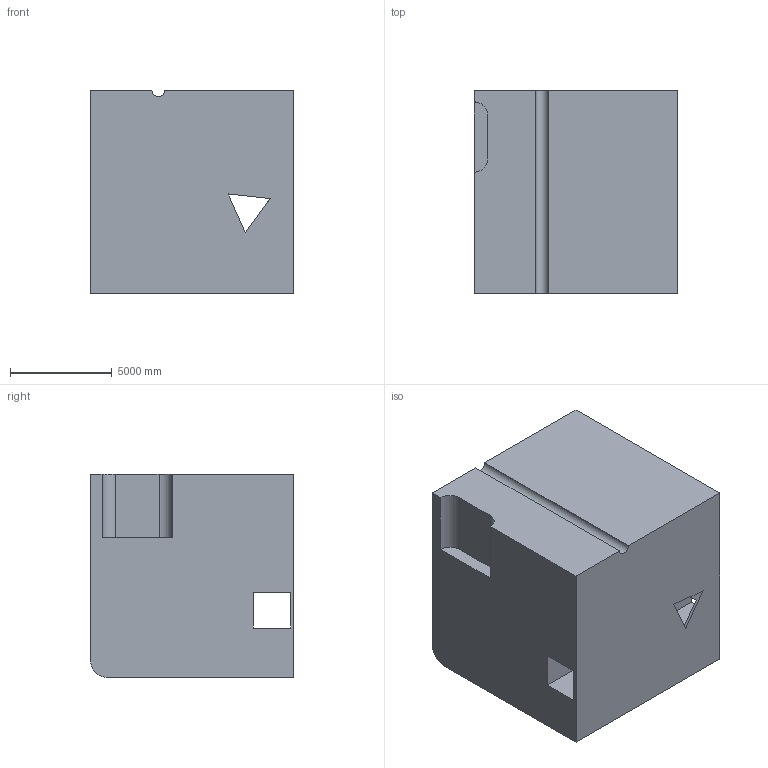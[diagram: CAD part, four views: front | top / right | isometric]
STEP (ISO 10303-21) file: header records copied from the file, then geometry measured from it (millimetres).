
FILE_DESCRIPTION (( 'STEP AP203' ), '1' );
FILE_NAME ('51.STEP', '2022-09-02T13:51:38', ( 'user' ), ( '' ), 'SwSTEP 2.0', 'SolidWorks 2021', '' );
FILE_SCHEMA (( 'CONFIG_CONTROL_DESIGN' ));
Length unit declared in the file: centimetre
Products named in the file (1): 51
Bounding box: 10000 x 10000 x 10000 mm (x, y, z)
Volume: 929655331520.2 mm3; surface area: 753886178.2 mm2
Topology: 1 solids, 1 shells, 25 faces, 75 edges, 50 vertices
Faces by surface type: plane 20, cylinder 5
Entity records: 928 total; most frequent: CARTESIAN_POINT 151, ORIENTED_EDGE 150, DIRECTION 137, EDGE_CURVE 75, VECTOR 65, LINE 65, VERTEX_POINT 50, AXIS2_PLACEMENT_3D 36
